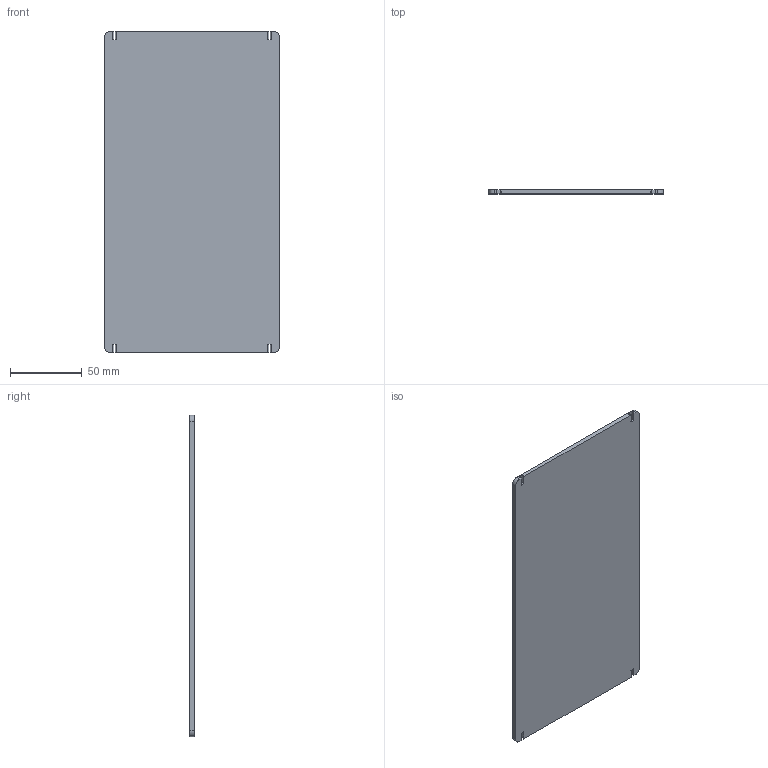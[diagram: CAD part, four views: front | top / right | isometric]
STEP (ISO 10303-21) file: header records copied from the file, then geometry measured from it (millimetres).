
FILE_DESCRIPTION(('Open CASCADE Model'),'2;1');
FILE_NAME('Open CASCADE Shape Model','2026-09-22T16:34:44',('Author'),( 'Open CASCADE'),'Open CASCADE STEP processor 7.9','Open CASCADE 7.9' ,'Unknown');
FILE_SCHEMA(('AUTOMOTIVE_DESIGN { 1 0 10303 214 1 1 1 1 }'));
Length unit declared in the file: millimetre
Products named in the file (1): Open CASCADE STEP translator 7.9 1
Bounding box: 122 x 3 x 224 mm (x, y, z)
Volume: 81729.9 mm3; surface area: 56789.9 mm2
Topology: 1 solids, 1 shells, 26 faces, 72 edges, 48 vertices
Faces by surface type: plane 14, cylinder 12
Entity records: 1756 total; most frequent: CARTESIAN_POINT 375, DIRECTION 240, ORIENTED_EDGE 144, PCURVE 144, DEFINITIONAL_REPRESENTATION 144, LINE 120, VECTOR 120, EDGE_CURVE 72
